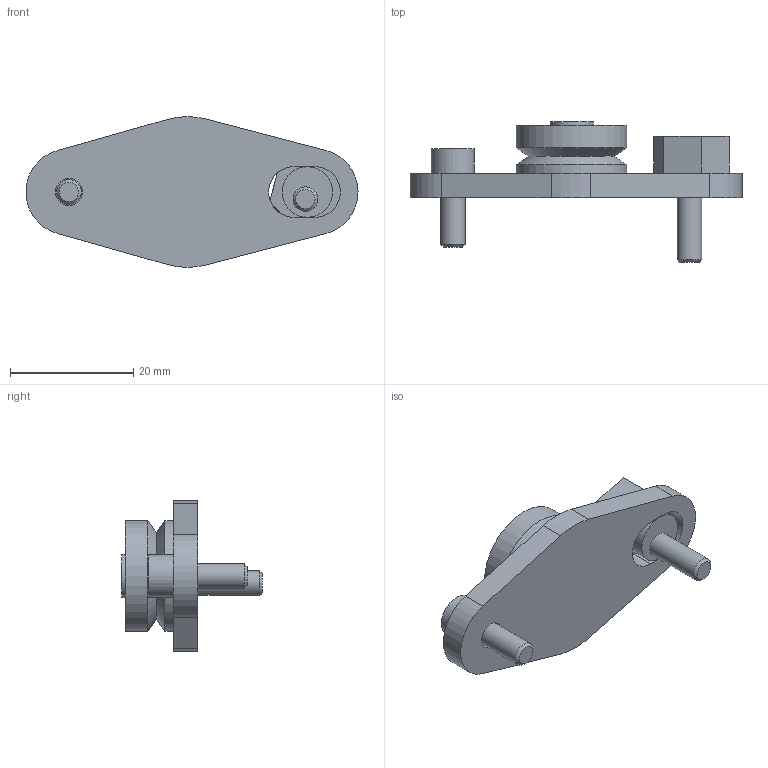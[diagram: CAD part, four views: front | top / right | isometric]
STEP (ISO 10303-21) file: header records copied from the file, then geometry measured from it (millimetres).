
FILE_DESCRIPTION( ( 'STEP AP203' ), '1' );
FILE_NAME( 'p:/temp/worker_235/temp/exporttempdir_1068_83_gzmC5/format_0/RBHJ18ENS.stp', '2022-06-02T04:32:13', ( 'License CC BY-ND 4.0' ), ( 'CADENAS' ), ' ', 'PARTsolutions', ' ' );
FILE_SCHEMA( ( 'CONFIG_CONTROL_DESIGN' ) );
Length unit declared in the file: millimetre
Products named in the file (1): _RBHJ18ENS
Bounding box: 53.97 x 22.9 x 24.5 mm (x, y, z)
Volume: 6496.7 mm3; surface area: 3892.7 mm2
Topology: 1 solids, 1 shells, 64 faces, 153 edges, 100 vertices
Faces by surface type: plane 45, cylinder 15, cone 4
Full cylindrical faces by diameter (mm): 4 x2, 4.4 x1, 7 x3, 8.21 x1, 18 x2
Entity records: 1806 total; most frequent: DIRECTION 304, CARTESIAN_POINT 299, ORIENTED_EDGE 274, EDGE_CURVE 137, AXIS2_PLACEMENT_3D 102, LINE 100, VECTOR 100, VERTEX_POINT 97
